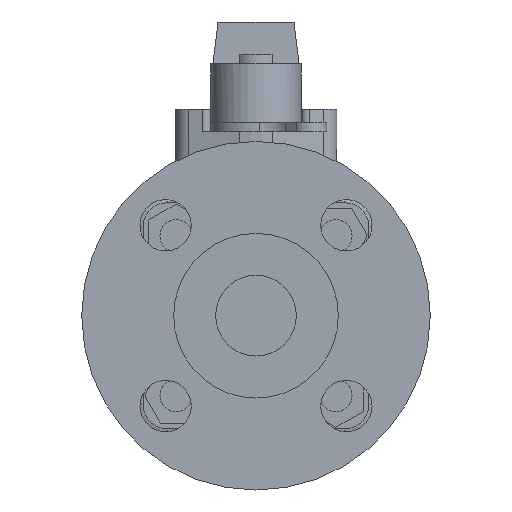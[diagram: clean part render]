
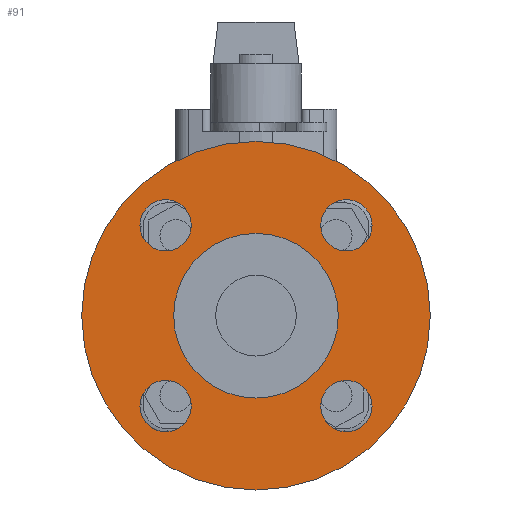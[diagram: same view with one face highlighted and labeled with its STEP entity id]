
A CAD part, left-side view. The second image highlights one B-rep face of the part: STEP entity #91.
In plain terms, the highlighted planar face has unit normal (-1, 0, 0).
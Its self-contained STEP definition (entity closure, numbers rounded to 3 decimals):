
#91=ADVANCED_FACE('',(#465,#466,#467,#468,#469,#470),#464,.T.);
#464=PLANE('',#2613);
#465=FACE_OUTER_BOUND('',#2614,.T.);
#466=FACE_BOUND('',#2615,.T.);
#467=FACE_BOUND('',#2616,.T.);
#468=FACE_BOUND('',#2617,.T.);
#469=FACE_BOUND('',#2618,.T.);
#470=FACE_BOUND('',#2619,.T.);
#2610=CARTESIAN_POINT('',(-68.2,-103.531,-118.));
#2611=DIRECTION('',(-1.,0.,0.));
#2612=DIRECTION('',(0.,0.,1.));
#2613=AXIS2_PLACEMENT_3D('',#2610,#2611,#2612);
#2614=EDGE_LOOP('',(#4188,#4189));
#2615=EDGE_LOOP('',(#4190,#4191));
#2616=EDGE_LOOP('',(#4192,#4193));
#2617=EDGE_LOOP('',(#4194,#4195));
#2618=EDGE_LOOP('',(#4196,#4197));
#2619=EDGE_LOOP('',(#4198,#4199));
#4188=ORIENTED_EDGE('',*,*,#5318,.T.);
#4189=ORIENTED_EDGE('',*,*,#5319,.T.);
#4190=ORIENTED_EDGE('',*,*,#5320,.F.);
#4191=ORIENTED_EDGE('',*,*,#5321,.F.);
#4192=ORIENTED_EDGE('',*,*,#5322,.F.);
#4193=ORIENTED_EDGE('',*,*,#5323,.F.);
#4194=ORIENTED_EDGE('',*,*,#5324,.F.);
#4195=ORIENTED_EDGE('',*,*,#5325,.F.);
#4196=ORIENTED_EDGE('',*,*,#5326,.F.);
#4197=ORIENTED_EDGE('',*,*,#5327,.F.);
#4198=ORIENTED_EDGE('',*,*,#5328,.F.);
#4199=ORIENTED_EDGE('',*,*,#5329,.F.);
#5318=EDGE_CURVE('',#6667,#6668,#6669,.T.);
#5319=EDGE_CURVE('',#6668,#6667,#6675,.T.);
#5320=EDGE_CURVE('',#6681,#6682,#6683,.T.);
#5321=EDGE_CURVE('',#6682,#6681,#6689,.T.);
#5322=EDGE_CURVE('',#6695,#6696,#6697,.T.);
#5323=EDGE_CURVE('',#6696,#6695,#6703,.T.);
#5324=EDGE_CURVE('',#6709,#6710,#6711,.T.);
#5325=EDGE_CURVE('',#6710,#6709,#6717,.T.);
#5326=EDGE_CURVE('',#6723,#6724,#6725,.T.);
#5327=EDGE_CURVE('',#6724,#6723,#6731,.T.);
#5328=EDGE_CURVE('',#6737,#6738,#6739,.T.);
#5329=EDGE_CURVE('',#6738,#6737,#6745,.T.);
#6667=VERTEX_POINT('',#10137);
#6668=VERTEX_POINT('',#10138);
#6669=CIRCLE('',#10142,54.);
#6675=CIRCLE('',#10146,54.);
#6681=VERTEX_POINT('',#10147);
#6682=VERTEX_POINT('',#10148);
#6683=CIRCLE('',#10152,7.95);
#6689=CIRCLE('',#10156,7.95);
#6695=VERTEX_POINT('',#10157);
#6696=VERTEX_POINT('',#10158);
#6697=CIRCLE('',#10162,7.95);
#6703=CIRCLE('',#10166,7.95);
#6709=VERTEX_POINT('',#10167);
#6710=VERTEX_POINT('',#10168);
#6711=CIRCLE('',#10172,7.95);
#6717=CIRCLE('',#10176,7.95);
#6723=VERTEX_POINT('',#10177);
#6724=VERTEX_POINT('',#10178);
#6725=CIRCLE('',#10182,7.95);
#6731=CIRCLE('',#10186,7.95);
#6737=VERTEX_POINT('',#10187);
#6738=VERTEX_POINT('',#10188);
#6739=CIRCLE('',#10192,25.5);
#6745=CIRCLE('',#10196,25.5);
#10137=CARTESIAN_POINT('',(-68.2,0.,54.));
#10138=CARTESIAN_POINT('',(-68.2,0.,-54.));
#10139=CARTESIAN_POINT('',(-68.2,0.,0.));
#10140=DIRECTION('',(-1.,0.,0.));
#10141=DIRECTION('',(0.,0.,1.));
#10142=AXIS2_PLACEMENT_3D('',#10139,#10140,#10141);
#10143=CARTESIAN_POINT('',(-68.2,0.,0.));
#10144=DIRECTION('',(-1.,0.,0.));
#10145=DIRECTION('',(0.,0.,1.));
#10146=AXIS2_PLACEMENT_3D('',#10143,#10144,#10145);
#10147=CARTESIAN_POINT('',(-68.2,28.001,-20.051));
#10148=CARTESIAN_POINT('',(-68.2,28.001,-35.951));
#10149=CARTESIAN_POINT('',(-68.2,28.001,-28.001));
#10150=DIRECTION('',(-1.,0.,0.));
#10151=DIRECTION('',(0.,0.,-1.));
#10152=AXIS2_PLACEMENT_3D('',#10149,#10150,#10151);
#10153=CARTESIAN_POINT('',(-68.2,28.001,-28.001));
#10154=DIRECTION('',(-1.,0.,0.));
#10155=DIRECTION('',(0.,0.,-1.));
#10156=AXIS2_PLACEMENT_3D('',#10153,#10154,#10155);
#10157=CARTESIAN_POINT('',(-68.2,-28.001,-35.951));
#10158=CARTESIAN_POINT('',(-68.2,-28.001,-20.051));
#10159=CARTESIAN_POINT('',(-68.2,-28.001,-28.001));
#10160=DIRECTION('',(-1.,0.,0.));
#10161=DIRECTION('',(0.,0.,1.));
#10162=AXIS2_PLACEMENT_3D('',#10159,#10160,#10161);
#10163=CARTESIAN_POINT('',(-68.2,-28.001,-28.001));
#10164=DIRECTION('',(-1.,0.,0.));
#10165=DIRECTION('',(0.,0.,1.));
#10166=AXIS2_PLACEMENT_3D('',#10163,#10164,#10165);
#10167=CARTESIAN_POINT('',(-68.2,-28.001,35.951));
#10168=CARTESIAN_POINT('',(-68.2,-28.001,20.051));
#10169=CARTESIAN_POINT('',(-68.2,-28.001,28.001));
#10170=DIRECTION('',(-1.,0.,0.));
#10171=DIRECTION('',(0.,0.,-1.));
#10172=AXIS2_PLACEMENT_3D('',#10169,#10170,#10171);
#10173=CARTESIAN_POINT('',(-68.2,-28.001,28.001));
#10174=DIRECTION('',(-1.,0.,0.));
#10175=DIRECTION('',(0.,0.,-1.));
#10176=AXIS2_PLACEMENT_3D('',#10173,#10174,#10175);
#10177=CARTESIAN_POINT('',(-68.2,28.001,20.051));
#10178=CARTESIAN_POINT('',(-68.2,28.001,35.951));
#10179=CARTESIAN_POINT('',(-68.2,28.001,28.001));
#10180=DIRECTION('',(-1.,0.,0.));
#10181=DIRECTION('',(0.,0.,1.));
#10182=AXIS2_PLACEMENT_3D('',#10179,#10180,#10181);
#10183=CARTESIAN_POINT('',(-68.2,28.001,28.001));
#10184=DIRECTION('',(-1.,0.,0.));
#10185=DIRECTION('',(0.,0.,1.));
#10186=AXIS2_PLACEMENT_3D('',#10183,#10184,#10185);
#10187=CARTESIAN_POINT('',(-68.2,0.,-25.5));
#10188=CARTESIAN_POINT('',(-68.2,0.,25.5));
#10189=CARTESIAN_POINT('',(-68.2,0.,0.));
#10190=DIRECTION('',(-1.,0.,0.));
#10191=DIRECTION('',(0.,0.,1.));
#10192=AXIS2_PLACEMENT_3D('',#10189,#10190,#10191);
#10193=CARTESIAN_POINT('',(-68.2,0.,0.));
#10194=DIRECTION('',(-1.,0.,0.));
#10195=DIRECTION('',(0.,0.,1.));
#10196=AXIS2_PLACEMENT_3D('',#10193,#10194,#10195);
